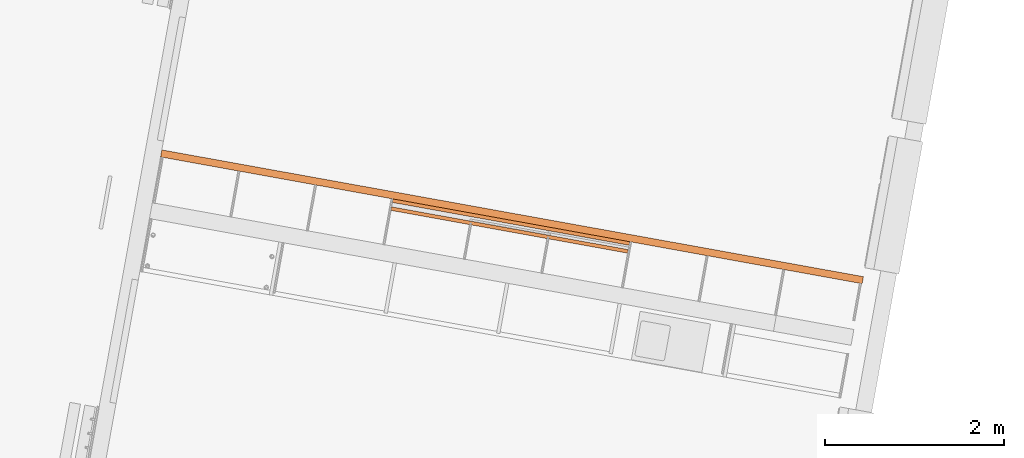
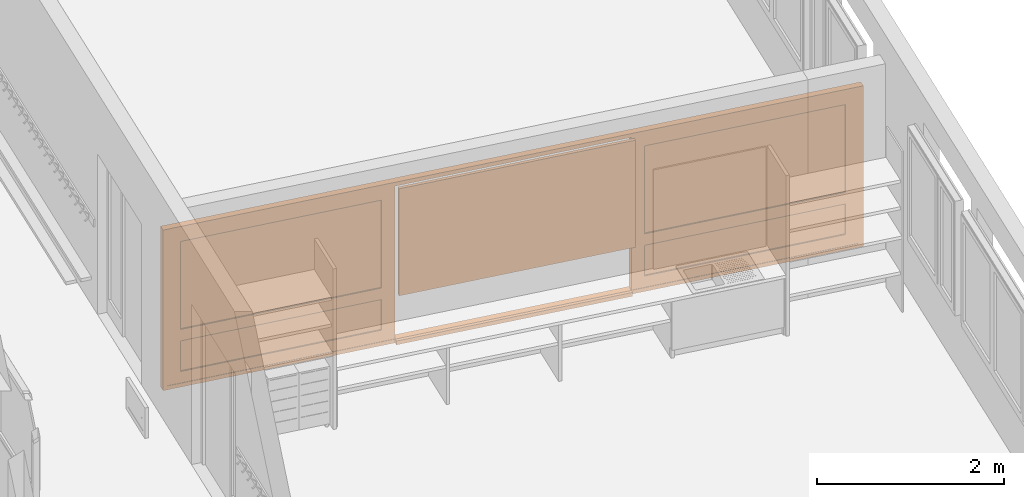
# One storey, part 22 of 52: 3 proxies.
"""IFC2X3 building model written with IfcOpenShell, lengths in metres."""

from ifc_helpers import new_model, entity, si_unit, converted_unit, derived_unit, money_unit, direction, frame, origin_with_axes, place, context, subcontext, project, spatial, polyline, outline, extrude, open_shell, faceted_brep, surface_model, source, transform, mapped, material, type_object, element, save


model = new_model("IFC2X3")

# Units and contexts
model_context = context("Model", 3, precision=1e-05, world=origin_with_axes(), true_north=direction((0.0, 1.0)))
body_context = subcontext(model_context, "Body", "Model", "MODEL_VIEW")
ifc_project = project(units=[si_unit("LENGTHUNIT", "METRE"), si_unit("AREAUNIT", "SQUARE_METRE"), si_unit("VOLUMEUNIT", "CUBIC_METRE"), converted_unit("PLANEANGLEUNIT", "DEGREE", entity("IfcPlaneAngleMeasure", 0.0174532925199), si_unit("PLANEANGLEUNIT", "RADIAN"), dimensions=[0, 0, 0, 0, 0, 0, 0]), money_unit("CHF"), converted_unit("TIMEUNIT", "Year", entity("IfcTimeMeasure", 31556926.0), si_unit("TIMEUNIT", "SECOND"), dimensions=[0, 0, 1, 0, 0, 0, 0]), si_unit("MASSUNIT", "GRAM", prefix="KILO"), si_unit("THERMODYNAMICTEMPERATUREUNIT", "DEGREE_CELSIUS"), si_unit("LUMINOUSINTENSITYUNIT", "LUMEN"), si_unit("ENERGYUNIT", "JOULE", prefix="MEGA"), derived_unit("THERMALCONDUCTANCEUNIT", [(si_unit("POWERUNIT", "WATT"), 1), (si_unit("LENGTHUNIT", "METRE"), -1), (si_unit("THERMODYNAMICTEMPERATUREUNIT", "KELVIN"), -1)]), derived_unit("SPECIFICHEATCAPACITYUNIT", [(si_unit("ENERGYUNIT", "JOULE"), 1), (si_unit("MASSUNIT", "GRAM", prefix="KILO"), -1), (si_unit("THERMODYNAMICTEMPERATUREUNIT", "KELVIN"), -1)]), derived_unit("MASSDENSITYUNIT", [(si_unit("MASSUNIT", "GRAM", prefix="KILO"), 1), (si_unit("VOLUMEUNIT", "CUBIC_METRE"), -1)])], contexts=[model_context])

# Site, building, storey
site_placement = place(None, frame((0.0, 0.0, 0.0), z_axis=(0.0, 0.0, 1.0), x_axis=(-0.177771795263, -0.984071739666, 0.0)))
site = spatial("IfcSite", under=ifc_project, at=site_placement, Name="Site", CompositionType="ELEMENT")
building_placement = place(site_placement, origin_with_axes())
building = spatial("IfcBuilding", under=site, at=building_placement, Name="Bâtiment", CompositionType="ELEMENT")
storey_placement = place(building_placement, frame((0.0, 0.0, 3.2), z_axis=(0.0, 0.0, 1.0), x_axis=(1.0, 0.0, 0.0)))
storey = spatial("IfcBuildingStorey", under=building, at=storey_placement, Name="R+1", CompositionType="ELEMENT", Elevation=3.2)

# Proxies
ifc_material_1 = material(Name="Matériau de construction IFC")
building_element_proxy_type_1 = type_object("IfcBuildingElementProxyType", Name="porte-couliss-triple_JM2", PredefinedType="NOTDEFINED")
shared_shape = source(origin_with_axes(), body_context, "Body", "SurfaceModel", [
    surface_model("IfcShellBasedSurfaceModel", [(7.92, -0.0799999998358, 0.05), (7.92, -0.0799999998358, 2.05), (7.92, 1.64206426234e-10, 2.05), (7.92, 1.64206426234e-10, 0.05), (7.97, -0.0799999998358, 2.05), (7.97, -0.0799999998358, 0.05), (7.97, 1.64206426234e-10, 2.05), (7.97, 1.64206426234e-10, 0.05)], [open_shell([[[0, 1, 2, 3]], [[4, 1, 0, 5]], [[6, 7, 3, 2]]])]),
    surface_model("IfcShellBasedSurfaceModel", [(7.97, -0.0799999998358, 0.0), (7.97, -0.0799999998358, 2.1), (7.97, 1.64206426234e-10, 2.1), (7.97, 1.64206426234e-10, 0.0)], [open_shell([[[0, 1, 2, 3]]])]),
    surface_model("IfcShellBasedSurfaceModel", [(0.05, -0.0799999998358, 0.05), (7.92, -0.0799999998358, 0.05), (7.92, 1.64206426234e-10, 0.05), (0.05, 1.64206426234e-10, 0.05), (7.92, -0.0799999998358, 0.0), (0.05, -0.0799999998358, 0.0), (7.92, 1.64206426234e-10, 0.0), (0.05, 1.64206426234e-10, 0.0)], [open_shell([[[0, 1, 2, 3]], [[4, 1, 0, 5]], [[6, 7, 3, 2]]])]),
    surface_model("IfcShellBasedSurfaceModel", [(7.97, -0.0799999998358, 0.0), (0.0, -0.0799999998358, 0.0), (0.0, 1.64206426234e-10, 0.0), (7.97, 1.64206426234e-10, 0.0)], [open_shell([[[0, 1, 2, 3]]])]),
    surface_model("IfcShellBasedSurfaceModel", [(7.97, -0.0799999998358, 0.0), (7.97, -0.0799999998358, 0.05), (7.92, -0.0799999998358, 0.05), (7.92, -0.0799999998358, 0.0)], [open_shell([[[0, 1, 2, 3]]])]),
    surface_model("IfcShellBasedSurfaceModel", [(7.97, 1.64206426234e-10, 0.0), (7.97, 1.64206426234e-10, 0.05), (7.92, 1.64206426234e-10, 0.05), (7.92, 1.64206426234e-10, 0.0)], [open_shell([[[0, 1, 2, 3]]])]),
    surface_model("IfcShellBasedSurfaceModel", [(0.05, -0.0799999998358, 0.0), (0.05, -0.0799999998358, 0.05), (0.0, -0.0799999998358, 0.05), (0.0, -0.0799999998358, 0.0)], [open_shell([[[0, 1, 2, 3]]])]),
    surface_model("IfcShellBasedSurfaceModel", [(0.05, 1.64206426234e-10, 0.0), (0.05, 1.64206426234e-10, 0.05), (0.0, 1.64206426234e-10, 0.05), (0.0, 1.64206426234e-10, 0.0)], [open_shell([[[0, 1, 2, 3]]])]),
    surface_model("IfcShellBasedSurfaceModel", [(0.05, -0.0799999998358, 2.05), (0.05, -0.0799999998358, 0.05), (0.05, 1.64206426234e-10, 0.05), (0.05, 1.64206426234e-10, 2.05), (0.0, -0.0799999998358, 0.05), (0.0, -0.0799999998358, 2.05), (0.0, 1.64206426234e-10, 0.05), (0.0, 1.64206426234e-10, 2.05)], [open_shell([[[0, 1, 2, 3]], [[4, 1, 0, 5]], [[6, 7, 3, 2]]])]),
    surface_model("IfcShellBasedSurfaceModel", [(0.0, -0.0799999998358, 0.0), (0.0, -0.0799999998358, 2.1), (0.0, 1.64206426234e-10, 2.1), (0.0, 1.64206426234e-10, 0.0)], [open_shell([[[0, 1, 2, 3]]])]),
    surface_model("IfcShellBasedSurfaceModel", [(7.92, -0.0799999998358, 2.05), (0.05, -0.0799999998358, 2.05), (0.05, 1.64206426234e-10, 2.05), (7.92, 1.64206426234e-10, 2.05), (0.05, -0.0799999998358, 2.1), (7.92, -0.0799999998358, 2.1), (0.05, 1.64206426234e-10, 2.1), (7.92, 1.64206426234e-10, 2.1)], [open_shell([[[0, 1, 2, 3]], [[4, 1, 0, 5]], [[6, 7, 3, 2]]])]),
    surface_model("IfcShellBasedSurfaceModel", [(7.97, -0.0799999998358, 2.1), (0.0, -0.0799999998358, 2.1), (0.0, 1.64206426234e-10, 2.1), (7.97, 1.64206426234e-10, 2.1)], [open_shell([[[0, 1, 2, 3]]])]),
    surface_model("IfcShellBasedSurfaceModel", [(7.97, -0.0799999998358, 2.05), (7.97, -0.0799999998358, 2.1), (7.92, -0.0799999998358, 2.1), (7.92, -0.0799999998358, 2.05)], [open_shell([[[0, 1, 2, 3]]])]),
    surface_model("IfcShellBasedSurfaceModel", [(7.97, 1.64206426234e-10, 2.05), (7.97, 1.64206426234e-10, 2.1), (7.92, 1.64206426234e-10, 2.1), (7.92, 1.64206426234e-10, 2.05)], [open_shell([[[0, 1, 2, 3]]])]),
    surface_model("IfcShellBasedSurfaceModel", [(0.05, -0.0799999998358, 2.05), (0.05, -0.0799999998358, 2.1), (0.0, -0.0799999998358, 2.1), (0.0, -0.0799999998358, 2.05)], [open_shell([[[0, 1, 2, 3]]])]),
    surface_model("IfcShellBasedSurfaceModel", [(0.05, 1.64206426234e-10, 2.05), (0.05, 1.64206426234e-10, 2.1), (0.0, 1.64206426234e-10, 2.1), (0.0, 1.64206426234e-10, 2.05)], [open_shell([[[0, 1, 2, 3]]])]),
    surface_model("IfcShellBasedSurfaceModel", [(7.77, -0.0744999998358, 0.2), (7.77, -0.0744999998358, 1.9), (7.77, -0.00449999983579, 1.9), (7.77, -0.00449999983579, 0.2), (7.92, -0.0744999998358, 1.9), (7.92, -0.0744999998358, 0.2), (7.92, -0.00449999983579, 1.9), (7.92, -0.00449999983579, 0.2)], [open_shell([[[0, 1, 2, 3]], [[4, 1, 0, 5]], [[6, 7, 3, 2]]])]),
    surface_model("IfcShellBasedSurfaceModel", [(7.92, -0.0744999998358, 0.05), (7.92, -0.0744999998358, 2.05), (7.92, -0.00449999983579, 2.05), (7.92, -0.00449999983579, 0.05)], [open_shell([[[0, 1, 2, 3]]])]),
    surface_model("IfcShellBasedSurfaceModel", [(5.48, -0.0744999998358, 0.2), (7.77, -0.0744999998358, 0.2), (7.77, -0.00449999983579, 0.2), (5.48, -0.00449999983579, 0.2), (7.77, -0.0744999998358, 0.05), (5.48, -0.0744999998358, 0.05), (7.77, -0.00449999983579, 0.05), (5.48, -0.00449999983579, 0.05)], [open_shell([[[0, 1, 2, 3]], [[4, 1, 0, 5]], [[6, 7, 3, 2]]])]),
    surface_model("IfcShellBasedSurfaceModel", [(7.92, -0.0744999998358, 0.05), (5.33, -0.0744999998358, 0.05), (5.33, -0.00449999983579, 0.05), (7.92, -0.00449999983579, 0.05)], [open_shell([[[0, 1, 2, 3]]])]),
    surface_model("IfcShellBasedSurfaceModel", [(7.92, -0.0744999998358, 0.05), (7.92, -0.0744999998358, 0.2), (7.77, -0.0744999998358, 0.2), (7.77, -0.0744999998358, 0.05)], [open_shell([[[0, 1, 2, 3]]])]),
    surface_model("IfcShellBasedSurfaceModel", [(7.92, -0.00449999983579, 0.05), (7.92, -0.00449999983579, 0.2), (7.77, -0.00449999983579, 0.2), (7.77, -0.00449999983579, 0.05)], [open_shell([[[0, 1, 2, 3]]])]),
    surface_model("IfcShellBasedSurfaceModel", [(5.48, -0.0744999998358, 0.05), (5.48, -0.0744999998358, 0.2), (5.33, -0.0744999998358, 0.2), (5.33, -0.0744999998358, 0.05)], [open_shell([[[0, 1, 2, 3]]])]),
    surface_model("IfcShellBasedSurfaceModel", [(5.48, -0.00449999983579, 0.05), (5.48, -0.00449999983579, 0.2), (5.33, -0.00449999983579, 0.2), (5.33, -0.00449999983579, 0.05)], [open_shell([[[0, 1, 2, 3]]])]),
    surface_model("IfcShellBasedSurfaceModel", [(5.48, -0.0744999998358, 1.9), (5.48, -0.0744999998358, 0.2), (5.48, -0.00449999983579, 0.2), (5.48, -0.00449999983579, 1.9), (5.33, -0.0744999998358, 0.2), (5.33, -0.0744999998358, 1.9), (5.33, -0.00449999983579, 0.2), (5.33, -0.00449999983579, 1.9)], [open_shell([[[0, 1, 2, 3]], [[4, 1, 0, 5]], [[6, 7, 3, 2]]])]),
    surface_model("IfcShellBasedSurfaceModel", [(5.33, -0.0744999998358, 0.05), (5.33, -0.0744999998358, 2.05), (5.33, -0.00449999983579, 2.05), (5.33, -0.00449999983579, 0.05)], [open_shell([[[0, 1, 2, 3]]])]),
    surface_model("IfcShellBasedSurfaceModel", [(7.77, -0.0744999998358, 1.9), (5.48, -0.0744999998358, 1.9), (5.48, -0.00449999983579, 1.9), (7.77, -0.00449999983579, 1.9), (5.48, -0.0744999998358, 2.05), (7.77, -0.0744999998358, 2.05), (5.48, -0.00449999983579, 2.05), (7.77, -0.00449999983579, 2.05)], [open_shell([[[0, 1, 2, 3]], [[4, 1, 0, 5]], [[6, 7, 3, 2]]])]),
    surface_model("IfcShellBasedSurfaceModel", [(7.92, -0.0744999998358, 2.05), (5.33, -0.0744999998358, 2.05), (5.33, -0.00449999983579, 2.05), (7.92, -0.00449999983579, 2.05)], [open_shell([[[0, 1, 2, 3]]])]),
    surface_model("IfcShellBasedSurfaceModel", [(7.92, -0.0744999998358, 1.9), (7.92, -0.0744999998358, 2.05), (7.77, -0.0744999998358, 2.05), (7.77, -0.0744999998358, 1.9)], [open_shell([[[0, 1, 2, 3]]])]),
    surface_model("IfcShellBasedSurfaceModel", [(7.92, -0.00449999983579, 1.9), (7.92, -0.00449999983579, 2.05), (7.77, -0.00449999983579, 2.05), (7.77, -0.00449999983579, 1.9)], [open_shell([[[0, 1, 2, 3]]])]),
    surface_model("IfcShellBasedSurfaceModel", [(5.48, -0.0744999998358, 1.9), (5.48, -0.0744999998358, 2.05), (5.33, -0.0744999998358, 2.05), (5.33, -0.0744999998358, 1.9)], [open_shell([[[0, 1, 2, 3]]])]),
    surface_model("IfcShellBasedSurfaceModel", [(5.48, -0.00449999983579, 1.9), (5.48, -0.00449999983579, 2.05), (5.33, -0.00449999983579, 2.05), (5.33, -0.00449999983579, 1.9)], [open_shell([[[0, 1, 2, 3]]])]),
    faceted_brep([(5.48, -0.0194999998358, 0.2), (7.77, -0.0194999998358, 0.2), (7.77, -0.0594999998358, 0.2), (5.48, -0.0594999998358, 0.2), (5.48, -0.0194999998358, 0.6), (7.77, -0.0194999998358, 0.6), (7.77, -0.0594999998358, 0.6), (5.48, -0.0594999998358, 0.6)], [[[0, 1, 2, 3]], [[1, 0, 4, 5]], [[2, 1, 5, 6]], [[3, 2, 6, 7]], [[0, 3, 7, 4]], [[5, 4, 7, 6]]]),
    faceted_brep([(5.48, -0.00449999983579, 0.6), (7.77, -0.00449999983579, 0.6), (7.77, -0.0744999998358, 0.6), (5.48, -0.0744999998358, 0.6), (5.48, -0.00449999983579, 0.75), (7.77, -0.00449999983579, 0.75), (7.77, -0.0744999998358, 0.75), (5.48, -0.0744999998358, 0.75)], [[[0, 1, 2, 3]], [[1, 0, 4, 5]], [[2, 1, 5, 6]], [[3, 2, 6, 7]], [[0, 3, 7, 4]], [[5, 4, 7, 6]]]),
    faceted_brep([(5.48, -0.0194999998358, 0.75), (7.77, -0.0194999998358, 0.75), (7.77, -0.0594999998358, 0.75), (5.48, -0.0594999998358, 0.75), (5.48, -0.0194999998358, 1.9), (7.77, -0.0194999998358, 1.9), (7.77, -0.0594999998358, 1.9), (5.48, -0.0594999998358, 1.9)], [[[0, 1, 2, 3]], [[1, 0, 4, 5]], [[2, 1, 5, 6]], [[3, 2, 6, 7]], [[0, 3, 7, 4]], [[5, 4, 7, 6]]]),
    surface_model("IfcShellBasedSurfaceModel", [(2.49, -0.0744999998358, 0.2), (2.49, -0.0744999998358, 1.9), (2.49, -0.00449999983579, 1.9), (2.49, -0.00449999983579, 0.2), (2.64, -0.0744999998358, 1.9), (2.64, -0.0744999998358, 0.2), (2.64, -0.00449999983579, 1.9), (2.64, -0.00449999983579, 0.2)], [open_shell([[[0, 1, 2, 3]], [[4, 1, 0, 5]], [[6, 7, 3, 2]]])]),
    surface_model("IfcShellBasedSurfaceModel", [(2.64, -0.0744999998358, 0.05), (2.64, -0.0744999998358, 2.05), (2.64, -0.00449999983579, 2.05), (2.64, -0.00449999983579, 0.05)], [open_shell([[[0, 1, 2, 3]]])]),
    surface_model("IfcShellBasedSurfaceModel", [(0.2, -0.0744999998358, 0.2), (2.49, -0.0744999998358, 0.2), (2.49, -0.00449999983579, 0.2), (0.2, -0.00449999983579, 0.2), (2.49, -0.0744999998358, 0.05), (0.2, -0.0744999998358, 0.05), (2.49, -0.00449999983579, 0.05), (0.2, -0.00449999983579, 0.05)], [open_shell([[[0, 1, 2, 3]], [[4, 1, 0, 5]], [[6, 7, 3, 2]]])]),
    surface_model("IfcShellBasedSurfaceModel", [(2.64, -0.0744999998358, 0.05), (0.05, -0.0744999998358, 0.05), (0.05, -0.00449999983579, 0.05), (2.64, -0.00449999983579, 0.05)], [open_shell([[[0, 1, 2, 3]]])]),
    surface_model("IfcShellBasedSurfaceModel", [(2.64, -0.0744999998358, 0.05), (2.64, -0.0744999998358, 0.2), (2.49, -0.0744999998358, 0.2), (2.49, -0.0744999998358, 0.05)], [open_shell([[[0, 1, 2, 3]]])]),
    surface_model("IfcShellBasedSurfaceModel", [(2.64, -0.00449999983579, 0.05), (2.64, -0.00449999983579, 0.2), (2.49, -0.00449999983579, 0.2), (2.49, -0.00449999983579, 0.05)], [open_shell([[[0, 1, 2, 3]]])]),
    surface_model("IfcShellBasedSurfaceModel", [(0.2, -0.0744999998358, 0.05), (0.2, -0.0744999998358, 0.2), (0.05, -0.0744999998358, 0.2), (0.05, -0.0744999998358, 0.05)], [open_shell([[[0, 1, 2, 3]]])]),
    surface_model("IfcShellBasedSurfaceModel", [(0.2, -0.00449999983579, 0.05), (0.2, -0.00449999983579, 0.2), (0.05, -0.00449999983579, 0.2), (0.05, -0.00449999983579, 0.05)], [open_shell([[[0, 1, 2, 3]]])]),
    surface_model("IfcShellBasedSurfaceModel", [(0.2, -0.0744999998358, 1.9), (0.2, -0.0744999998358, 0.2), (0.2, -0.00449999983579, 0.2), (0.2, -0.00449999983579, 1.9), (0.05, -0.0744999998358, 0.2), (0.05, -0.0744999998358, 1.9), (0.05, -0.00449999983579, 0.2), (0.05, -0.00449999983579, 1.9)], [open_shell([[[0, 1, 2, 3]], [[4, 1, 0, 5]], [[6, 7, 3, 2]]])]),
    surface_model("IfcShellBasedSurfaceModel", [(0.05, -0.0744999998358, 0.05), (0.05, -0.0744999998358, 2.05), (0.05, -0.00449999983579, 2.05), (0.05, -0.00449999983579, 0.05)], [open_shell([[[0, 1, 2, 3]]])]),
    surface_model("IfcShellBasedSurfaceModel", [(2.49, -0.0744999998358, 1.9), (0.2, -0.0744999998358, 1.9), (0.2, -0.00449999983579, 1.9), (2.49, -0.00449999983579, 1.9), (0.2, -0.0744999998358, 2.05), (2.49, -0.0744999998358, 2.05), (0.2, -0.00449999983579, 2.05), (2.49, -0.00449999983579, 2.05)], [open_shell([[[0, 1, 2, 3]], [[4, 1, 0, 5]], [[6, 7, 3, 2]]])]),
    surface_model("IfcShellBasedSurfaceModel", [(2.64, -0.0744999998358, 2.05), (0.05, -0.0744999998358, 2.05), (0.05, -0.00449999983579, 2.05), (2.64, -0.00449999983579, 2.05)], [open_shell([[[0, 1, 2, 3]]])]),
    surface_model("IfcShellBasedSurfaceModel", [(2.64, -0.0744999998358, 1.9), (2.64, -0.0744999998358, 2.05), (2.49, -0.0744999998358, 2.05), (2.49, -0.0744999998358, 1.9)], [open_shell([[[0, 1, 2, 3]]])]),
    surface_model("IfcShellBasedSurfaceModel", [(2.64, -0.00449999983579, 1.9), (2.64, -0.00449999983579, 2.05), (2.49, -0.00449999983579, 2.05), (2.49, -0.00449999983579, 1.9)], [open_shell([[[0, 1, 2, 3]]])]),
    surface_model("IfcShellBasedSurfaceModel", [(0.2, -0.0744999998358, 1.9), (0.2, -0.0744999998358, 2.05), (0.05, -0.0744999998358, 2.05), (0.05, -0.0744999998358, 1.9)], [open_shell([[[0, 1, 2, 3]]])]),
    surface_model("IfcShellBasedSurfaceModel", [(0.2, -0.00449999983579, 1.9), (0.2, -0.00449999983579, 2.05), (0.05, -0.00449999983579, 2.05), (0.05, -0.00449999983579, 1.9)], [open_shell([[[0, 1, 2, 3]]])]),
    faceted_brep([(0.2, -0.0194999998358, 0.2), (2.49, -0.0194999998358, 0.2), (2.49, -0.0594999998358, 0.2), (0.2, -0.0594999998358, 0.2), (0.2, -0.0194999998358, 0.6), (2.49, -0.0194999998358, 0.6), (2.49, -0.0594999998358, 0.6), (0.2, -0.0594999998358, 0.6)], [[[0, 1, 2, 3]], [[1, 0, 4, 5]], [[2, 1, 5, 6]], [[3, 2, 6, 7]], [[0, 3, 7, 4]], [[5, 4, 7, 6]]]),
    faceted_brep([(0.2, -0.00449999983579, 0.6), (2.49, -0.00449999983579, 0.6), (2.49, -0.0744999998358, 0.6), (0.2, -0.0744999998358, 0.6), (0.2, -0.00449999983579, 0.75), (2.49, -0.00449999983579, 0.75), (2.49, -0.0744999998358, 0.75), (0.2, -0.0744999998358, 0.75)], [[[0, 1, 2, 3]], [[1, 0, 4, 5]], [[2, 1, 5, 6]], [[3, 2, 6, 7]], [[0, 3, 7, 4]], [[5, 4, 7, 6]]]),
    faceted_brep([(0.2, -0.0194999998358, 0.75), (2.49, -0.0194999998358, 0.75), (2.49, -0.0594999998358, 0.75), (0.2, -0.0594999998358, 0.75), (0.2, -0.0194999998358, 1.9), (2.49, -0.0194999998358, 1.9), (2.49, -0.0594999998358, 1.9), (0.2, -0.0594999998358, 1.9)], [[[0, 1, 2, 3]], [[1, 0, 4, 5]], [[2, 1, 5, 6]], [[3, 2, 6, 7]], [[0, 3, 7, 4]], [[5, 4, 7, 6]]]),
])
proxy_1_placement = place(storey_placement, frame((118.50484124, -156.447151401, 0.0), z_axis=(0.0, 0.0, 1.0), x_axis=(0.0, 1.0, 0.0)))
element("IfcBuildingElementProxy", 1, at=proxy_1_placement, inside=storey, type_object=building_element_proxy_type_1, material=ifc_material_1, Name="coulissant-classe", context=body_context, shape_type="MappedRepresentation", body=[
    mapped(shared_shape, transform((0.0, 0.0, 0.0))),
])
ifc_material_2 = material(Name="_panneau mélaminé")
building_element_proxy_type_2 = type_object("IfcBuildingElementProxyType", Name="_panneau mélaminé 40", PredefinedType="NOTDEFINED")
proxy_2_placement = place(storey_placement, frame((118.674841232, -151.107651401, 0.7), z_axis=(0.0, 0.0, 1.0), x_axis=(0.0, -1.0, 0.0)))
element("IfcBuildingElementProxy", 2, at=proxy_2_placement, inside=storey, type_object=building_element_proxy_type_2, material=ifc_material_2, Name="tableau-classe", context=body_context, shape_type="SweptSolid", body=[
    extrude(outline(polyline([(0.0095, 0.0), (2.6995, 0.0), (2.6995, 0.04), (0.0095, 0.04), (0.0095, 0.0)])), origin_with_axes(), (0.0, 0.0, 1.0), 1.4),
])
ifc_material_3 = material(Name="_Bois contreplaqué")
building_element_proxy_type_3 = type_object("IfcBuildingElementProxyType", Name="_Bois contreplaqué 50", PredefinedType="NOTDEFINED")
proxy_3_placement = place(storey_placement, frame((118.58484124, -153.807151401, 0.05), z_axis=(0.0, 0.0, 1.0), x_axis=(1.0, 0.0, 0.0)))
element("IfcBuildingElementProxy", 3, at=proxy_3_placement, inside=storey, type_object=building_element_proxy_type_3, material=ifc_material_3, Name="socle-tableau", context=body_context, shape_type="SweptSolid", body=[
    extrude(outline(polyline([(0.0, 0.0), (0.0399999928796, 0.0), (0.0399999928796, 2.69), (0.0, 2.69), (0.0, 0.0)])), frame((0.0, 0.0, -0.05), z_axis=(0.0, 0.0, 1.0), x_axis=(1.0, 0.0, 0.0)), (0.0, 0.0, 1.0), 0.05),
])

save(model, "model.ifc")
